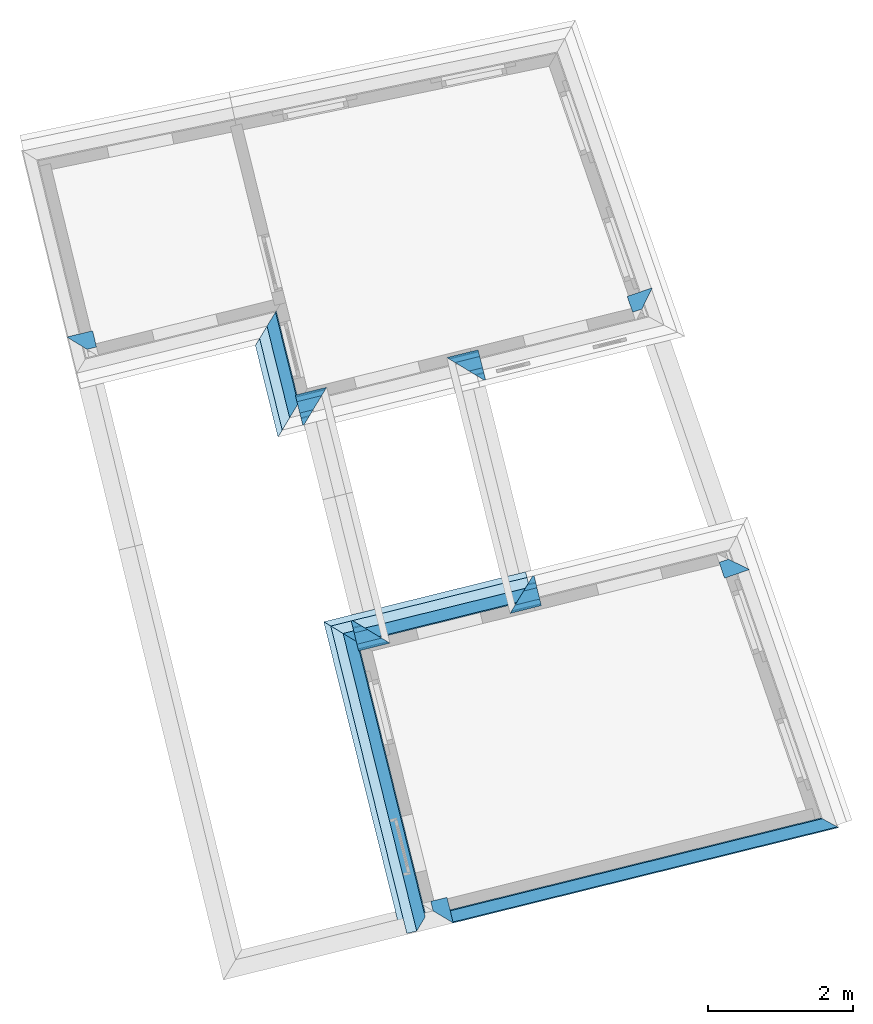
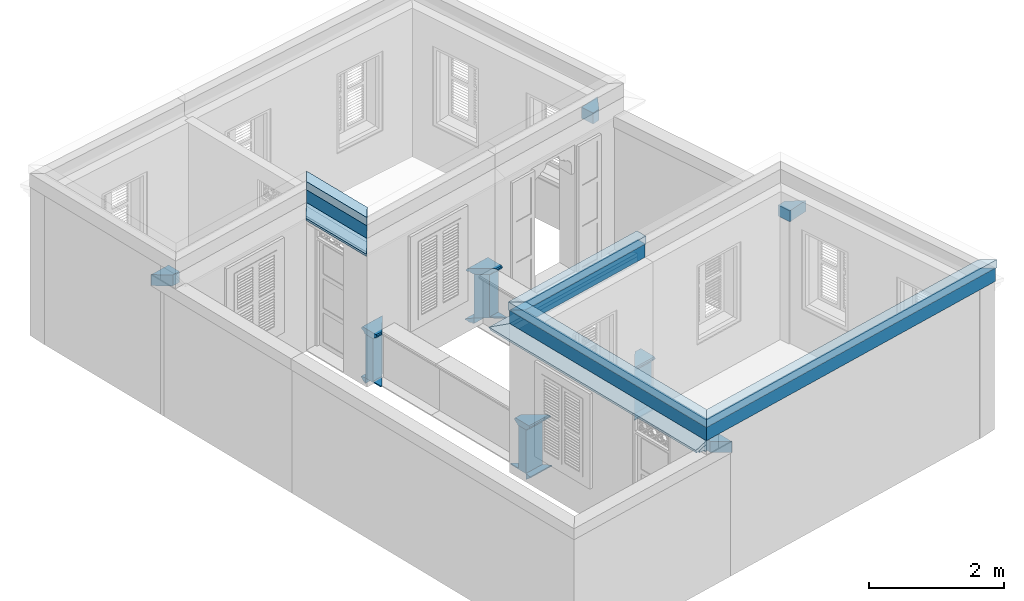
# One storey, part 13 of 15: 16 walls, 14 roofs.
"""IFC4 building model written with IfcOpenShell, lengths in metres."""

import ifcopenshell
import ifcopenshell.guid

model = None  # the IFC model being written
_history = None  # IfcOwnerHistory: only IFC2X3 demands one
_inside = {}  # id of a spatial element -> (the spatial element, [elements in it])
_under = {}  # id of a project, library or spatial element -> (it, [spatial elements below it])
_declared = {}  # id of a project -> (the project, [libraries it declares])
_typed = {}  # id of a type object -> (the type object, [elements of that type])
_made_of = {}  # id of a material, layer set ... -> (it, [elements and type objects made of it])


def new_model(schema):
    """Start an empty IFC model of exactly this schema.

    Asked for "IFC4X3", IfcOpenShell would pick the latest addendum, in which some entities
    have other attributes; the version numbers below select the first issue.
    IFC2X3 requires an IfcOwnerHistory on every rooted entity: one is made here for all.
    """
    global model, _history
    if schema == "IFC4X3":
        model = ifcopenshell.file(schema_version=(4, 3, 0, 0))
    else:
        model = ifcopenshell.file(schema=schema)
    _inside.clear()
    _under.clear()
    _declared.clear()
    _typed.clear()
    _made_of.clear()
    _history = None
    if model.schema == "IFC2X3":
        org = make("IfcOrganization", Name="unknown")
        user = make(
            "IfcPersonAndOrganization",
            ThePerson=make("IfcPerson", FamilyName="unknown"),
            TheOrganization=org,
        )
        app = make(
            "IfcApplication",
            ApplicationDeveloper=org,
            Version="unknown",
            ApplicationFullName="unknown",
            ApplicationIdentifier="unknown",
        )
        _history = make(
            "IfcOwnerHistory",
            OwningUser=user,
            OwningApplication=app,
            ChangeAction="ADDED",
            CreationDate=0,
        )
    return model


def make(cls, **values):
    """One entity of the class cls with the attributes given. An attribute that is None is left unset."""
    return model.create_entity(
        cls, **{name: value for name, value in values.items() if value is not None}
    )


def rooted(cls, **values):
    """An entity with a GlobalId (a new one), such as an element, a storey or a relation."""
    return make(cls, GlobalId=ifcopenshell.guid.new(), OwnerHistory=_history, **values)


def si_unit(unit_type, name, prefix=None):
    """IfcSIUnit, for example si_unit("LENGTHUNIT", "METRE", prefix="MILLI")."""
    return make("IfcSIUnit", UnitType=unit_type, Prefix=prefix, Name=name)


def assignment(units):
    """IfcUnitAssignment: the units of a project."""
    return None if units is None else make("IfcUnitAssignment", Units=units)


def point(xyz):
    """IfcCartesianPoint."""
    return None if xyz is None else make("IfcCartesianPoint", Coordinates=xyz)


def direction(xyz):
    """IfcDirection."""
    return None if xyz is None else make("IfcDirection", DirectionRatios=xyz)


def frame(location, z_axis=None, x_axis=None):
    """IfcAxis2Placement3D, a coordinate frame: its origin and axes. An axis left out is left unset."""
    return make(
        "IfcAxis2Placement3D",
        Location=point(location),
        Axis=direction(z_axis),
        RefDirection=direction(x_axis),
    )


def origin_with_axes():
    """The frame at (0, 0, 0) with the z axis (0, 0, 1) and the x axis (1, 0, 0) written out."""
    return frame((0.0, 0.0, 0.0), z_axis=(0.0, 0.0, 1.0), x_axis=(1.0, 0.0, 0.0))


def place(relative_to, where):
    """IfcLocalPlacement: puts the frame where relative to a parent placement (None: the world)."""
    return make(
        "IfcLocalPlacement", PlacementRelTo=relative_to, RelativePlacement=where
    )


def context(
    kind, dimensions, precision=None, world=None, true_north=None, identifier=None
):
    """IfcGeometricRepresentationContext, for example the 3D "Model" context."""
    return make(
        "IfcGeometricRepresentationContext",
        ContextIdentifier=identifier,
        ContextType=kind,
        CoordinateSpaceDimension=dimensions,
        Precision=precision,
        WorldCoordinateSystem=world,
        TrueNorth=true_north,
    )


def subcontext(parent, identifier, kind, view, scale=None):
    """IfcGeometricRepresentationSubContext, for example "Body" below "Model"."""
    return make(
        "IfcGeometricRepresentationSubContext",
        ContextIdentifier=identifier,
        ContextType=kind,
        ParentContext=parent,
        TargetScale=scale,
        TargetView=view,
    )


def project(units=None, contexts=None):
    """IfcProject with its units and contexts."""
    return rooted(
        "IfcProject",
        Name="project",
        RepresentationContexts=contexts,
        UnitsInContext=assignment(units),
    )


def spatial(cls, under=None, at=None, **own):
    """A site, building, storey or space (cls), placed at a placement, below another one or the project."""
    s = rooted(cls, ObjectPlacement=at, **own)
    if under is not None:
        _under.setdefault(under.id(), (under, []))[1].append(s)
    return s


def polyline(points):
    """IfcPolyline through the points."""
    return make("IfcPolyline", Points=[point(p) for p in points])


def outline(outer, holes=None, kind="AREA"):
    """IfcArbitraryClosedProfileDef: a profile drawn as a closed curve; with holes, ...WithVoids."""
    if holes is None:
        return make("IfcArbitraryClosedProfileDef", ProfileType=kind, OuterCurve=outer)
    return make(
        "IfcArbitraryProfileDefWithVoids",
        ProfileType=kind,
        OuterCurve=outer,
        InnerCurves=holes,
    )


def extrude(swept, where, along, depth):
    """IfcExtrudedAreaSolid: the profile swept, set in the frame where, extruded along a direction by depth."""
    return make(
        "IfcExtrudedAreaSolid",
        SweptArea=swept,
        Position=where,
        ExtrudedDirection=direction(along),
        Depth=depth,
    )


def clip(a, b, op="DIFFERENCE"):
    """IfcBooleanClippingResult: the solid a cut by the half space b."""
    return make(
        "IfcBooleanClippingResult", Operator=op, FirstOperand=a, SecondOperand=b
    )


def halfspace(plane, agree):
    """IfcHalfSpaceSolid: all space on one side of the plane z = 0 of the frame plane."""
    return make(
        "IfcHalfSpaceSolid",
        BaseSurface=make("IfcPlane", Position=plane),
        AgreementFlag=agree,
    )


def shape(context_of_items, identifier, shape_type, items):
    """IfcShapeRepresentation: the items that make up one representation, for example the "Body"."""
    return make(
        "IfcShapeRepresentation",
        ContextOfItems=context_of_items,
        RepresentationIdentifier=identifier,
        RepresentationType=shape_type,
        Items=items,
    )


def material_profile(
    of_material, cross_section, Name=None, Category=None, Priority=None
):
    """IfcMaterialProfile: a cross section and its material."""
    return make(
        "IfcMaterialProfile",
        Name=Name,
        Material=of_material,
        Profile=cross_section,
        Priority=Priority,
        Category=Category,
    )


def profile_set(profiles, Name=None, composite=None):
    """IfcMaterialProfileSet."""
    return make(
        "IfcMaterialProfileSet",
        Name=Name,
        MaterialProfiles=profiles,
        CompositeProfile=composite,
    )


def profile_usage(for_profile_set, cardinal=None, extent=None):
    """IfcMaterialProfileSetUsage: how a profile set lies along its element."""
    return make(
        "IfcMaterialProfileSetUsage",
        ForProfileSet=for_profile_set,
        CardinalPoint=cardinal,
        ReferenceExtent=extent,
    )


def made_of(thing, what):
    """Note that an element or type object is made of a material, layer set ...; save() writes the relation."""
    if what is not None:
        _made_of.setdefault(what.id(), (what, []))[1].append(thing)
    return thing


def type_object(cls, material=None, **own):
    """A type object (cls), such as IfcWallType, which elements share."""
    return made_of(rooted(cls, **own), material)


def element(
    cls,
    number,
    at=None,
    inside=None,
    cuts=None,
    type_object=None,
    material=None,
    context=None,
    identifier="Body",
    shape_type=None,
    held_by="IfcProductDefinitionShape",
    body=None,
    shapes=None,
    **own,
):
    """One element of the class cls, such as IfcWall. Its Tag is "e" and its number.

    at: its placement. inside: the storey or other place that contains it. cuts: it is an
    opening in that element (IfcRelVoidsElement). A single representation is given by context,
    identifier, shape_type and body (its items); several are given by shapes. held_by: the class
    of the entity that holds the representations. save() writes the other relations.
    """
    e = rooted(cls, Tag="e%d" % number, ObjectPlacement=at, **own)
    if body is not None:
        shapes = [shape(context, identifier, shape_type, body)]
    if shapes is not None:
        e.Representation = make(held_by, Representations=shapes)
    if inside is not None:
        _inside.setdefault(inside.id(), (inside, []))[1].append(e)
    if cuts is not None:
        rooted(
            "IfcRelVoidsElement", RelatingBuildingElement=cuts, RelatedOpeningElement=e
        )
    if type_object is not None:
        _typed.setdefault(type_object.id(), (type_object, []))[1].append(e)
    return made_of(e, material)


def aggregate(whole, parts):
    """IfcRelAggregates: a whole, such as a stair, and the parts it consists of."""
    return rooted("IfcRelAggregates", RelatingObject=whole, RelatedObjects=parts)


def save(model, path):
    """Write the relations noted so far, then the file.

    IfcRelAggregates (storeys below a building ...), IfcRelContainedInSpatialStructure (elements
    in a storey), IfcRelDefinesByType, IfcRelAssociatesMaterial and IfcRelDeclares: one each for
    every whole, place, type object, material and project.
    """
    for whole, parts in _under.values():
        aggregate(whole, parts)
    for where, things in _inside.values():
        rooted(
            "IfcRelContainedInSpatialStructure",
            RelatedElements=things,
            RelatingStructure=where,
        )
    for kind, things in _typed.values():
        rooted("IfcRelDefinesByType", RelatedObjects=things, RelatingType=kind)
    for what, things in _made_of.values():
        rooted("IfcRelAssociatesMaterial", RelatedObjects=things, RelatingMaterial=what)
    for by, libraries in _declared.values():
        rooted("IfcRelDeclares", RelatingContext=by, RelatedDefinitions=libraries)
    model.write(path)


model = new_model("IFC4")

# Units and contexts
model_context = context("Model", 3, world=origin_with_axes())
body_context = subcontext(model_context, "Body", "Model", "MODEL_VIEW")
ifc_project = project(units=[si_unit("PLANEANGLEUNIT", "RADIAN"), si_unit("MASSUNIT", "GRAM", prefix="KILO"), si_unit("FORCEUNIT", "NEWTON", prefix="KILO"), si_unit("LENGTHUNIT", "METRE"), si_unit("AREAUNIT", "SQUARE_METRE"), si_unit("VOLUMEUNIT", "CUBIC_METRE")], contexts=[model_context, model_context])

# Site, building, storey
site_placement = place(None, origin_with_axes())
site = spatial("IfcSite", under=ifc_project, at=site_placement, Name="Site plot-5", CompositionType="ELEMENT")
building_placement = place(None, origin_with_axes())
building = spatial("IfcBuilding", under=site, at=building_placement, Name="Building plot-5", CompositionType="ELEMENT")
storey_placement = place(None, frame((0.0, 0.0, 3.45), z_axis=(0.0, 0.0, 1.0), x_axis=(1.0, 0.0, 0.0)))
storey = spatial("IfcBuildingStorey", under=building, at=storey_placement, Name="plot-5 1", CompositionType="ELEMENT", Elevation=3.45)

# Walls
ifc_material_profile_1 = material_profile(None, outline(polyline([(0.265, 2.245), (0.265, 2.445), (0.035, 2.445), (0.035, 2.245), (0.265, 2.245)])))
ifc_profile_set_1 = profile_set([ifc_material_profile_1])
ifc_profile_usage_1 = profile_usage(ifc_profile_set_1)
wall_type_1 = type_object("IfcWallType", Name="parapet street_1", PredefinedType="PARAPET", material=ifc_profile_set_1)
wall_1_placement = place(storey_placement, frame((24.8957676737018, 25.5389001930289, 0.0), z_axis=(-0.945125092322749, -0.32670867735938, 0.0), x_axis=(0.32670867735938, -0.945125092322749, 0.0)))
element("IfcWall", 1, at=wall_1_placement, inside=storey, type_object=wall_type_1, material=ifc_profile_usage_1, Name="parapet street_1", context=body_context, shape_type="Clipping", body=[
    clip(clip(extrude(outline(polyline([(0.265, 2.245), (0.265, 2.445), (0.035, 2.445), (0.035, 2.245), (0.265, 2.245)])), origin_with_axes(), (0.0, 0.0, 1.0), 2.1), halfspace(frame((0.0, 0.0, 1.1), z_axis=(-9.49410759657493e-16, 0.0, -1.0), x_axis=(0.0, 1.0, 0.0)), True)), halfspace(frame((0.0, 0.0, 1.0), z_axis=(-0.707106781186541, 0.0, -0.707106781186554), x_axis=(0.0, 1.0, 0.0)), False)),
])
ifc_profile_usage_2 = profile_usage(ifc_profile_set_1)
wall_2_placement = place(storey_placement, frame((21.7435566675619, 28.2300858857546, 0.0), z_axis=(0.945125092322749, 0.32670867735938, 0.0), x_axis=(-0.32670867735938, 0.945125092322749, 0.0)))
element("IfcWall", 2, at=wall_2_placement, inside=storey, type_object=wall_type_1, material=ifc_profile_usage_2, Name="parapet street_1", context=body_context, shape_type="Clipping", body=[
    clip(clip(extrude(outline(polyline([(0.265, 2.245), (0.265, 2.445), (0.035, 2.445), (0.035, 2.245), (0.265, 2.245)])), origin_with_axes(), (0.0, 0.0, 1.0), 2.1), halfspace(frame((0.0, 0.0, 1.1), z_axis=(0.707106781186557, 0.0, -0.707106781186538), x_axis=(0.0, 1.0, 0.0)), True)), halfspace(frame((0.0, 0.0, 1.0), z_axis=(-9.49410759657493e-16, 0.0, -1.0), x_axis=(0.0, 1.0, 0.0)), False)),
])
ifc_material_profile_2 = material_profile(None, outline(polyline([(0.265, 2.245), (0.265, 2.445), (0.035, 2.445), (0.035, 2.245), (0.265, 2.245)])))
ifc_profile_set_2 = profile_set([ifc_material_profile_2])
ifc_profile_usage_3 = profile_usage(ifc_profile_set_2)
wall_type_2 = type_object("IfcWallType", Name="parapet party_1", PredefinedType="PARAPET", material=ifc_profile_set_2)
wall_3_placement = place(storey_placement, frame((14.2367490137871, 27.8169305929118, 0.0), z_axis=(0.971605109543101, 0.236608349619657, 0.0), x_axis=(-0.236608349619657, 0.971605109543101, 0.0)))
element("IfcWall", 3, at=wall_3_placement, inside=storey, type_object=wall_type_2, material=ifc_profile_usage_3, Name="parapet party_1", context=body_context, shape_type="Clipping", body=[
    clip(clip(extrude(outline(polyline([(0.265, 2.245), (0.265, 2.445), (0.035, 2.445), (0.035, 2.245), (0.265, 2.245)])), origin_with_axes(), (0.0, 0.0, 1.0), 2.1), halfspace(frame((0.0, 0.0, 1.1), z_axis=(8.26946079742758e-16, 0.0, -1.0), x_axis=(0.0, 1.0, 0.0)), True)), halfspace(frame((0.0, 0.0, 1.0), z_axis=(-0.707106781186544, 0.0, -0.707106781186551), x_axis=(0.0, 1.0, 0.0)), False)),
])
ifc_profile_usage_4 = profile_usage(ifc_profile_set_2)
wall_4_placement = place(storey_placement, frame((19.6233099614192, 21.4425455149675, 0.0), z_axis=(0.240250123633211, -0.970711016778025, 0.0), x_axis=(0.970711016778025, 0.240250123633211, 0.0)))
element("IfcWall", 4, at=wall_4_placement, inside=storey, type_object=wall_type_2, material=ifc_profile_usage_4, Name="parapet party_1", context=body_context, shape_type="Clipping", body=[
    clip(clip(extrude(outline(polyline([(0.265, 2.245), (0.265, 2.445), (0.035, 2.445), (0.035, 2.245), (0.265, 2.245)])), origin_with_axes(), (0.0, 0.0, 1.0), 2.1), halfspace(frame((0.0, 0.0, 1.1), z_axis=(0.707106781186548, 0.0, -0.707106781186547), x_axis=(0.0, 1.0, 0.0)), True)), halfspace(frame((0.0, 0.0, 1.0), z_axis=(1.93716910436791e-15, 0.0, -1.0), x_axis=(0.0, 1.0, 0.0)), False)),
])
ifc_material_profile_3 = material_profile(None, outline(polyline([(0.25, 0.0), (0.25, 0.795), (0.09, 0.795), (0.09, 0.02), (-0.08, 0.02), (-0.08, 0.0), (0.25, 0.0)])))
ifc_profile_set_3 = profile_set([ifc_material_profile_3])
ifc_profile_usage_5 = profile_usage(ifc_profile_set_3)
wall_type_3 = type_object("IfcWallType", Name="parapet internal_0", PredefinedType="PARAPET", material=ifc_profile_set_3)
wall_5_placement = place(storey_placement, frame((19.8901854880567, 24.5265854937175, 0.0), z_axis=(-0.970711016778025, -0.240250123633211, 0.0), x_axis=(0.240250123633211, -0.970711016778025, 0.0)))
element("IfcWall", 5, at=wall_5_placement, inside=storey, type_object=wall_type_3, material=ifc_profile_usage_5, Name="parapet internal_0", context=body_context, shape_type="Clipping", body=[
    clip(clip(extrude(outline(polyline([(0.25, 0.0), (0.25, 0.795), (0.09, 0.795), (0.09, 0.02), (-0.08, 0.02), (-0.08, 0.0), (0.25, 0.0)])), origin_with_axes(), (0.0, 0.0, 1.0), 2.1), halfspace(frame((0.0, 0.0, 1.1), z_axis=(1.71512449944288e-15, 0.0, -1.0), x_axis=(0.0, 1.0, 0.0)), True)), halfspace(frame((0.0, 0.0, 1.0), z_axis=(-0.70710678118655, 0.0, -0.707106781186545), x_axis=(0.0, 1.0, 0.0)), False)),
])
ifc_profile_usage_6 = profile_usage(ifc_profile_set_3)
wall_6_placement = place(storey_placement, frame((17.1456364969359, 26.8748212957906, 0.0), z_axis=(0.970711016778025, 0.240250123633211, 0.0), x_axis=(-0.240250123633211, 0.970711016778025, 0.0)))
element("IfcWall", 6, at=wall_6_placement, inside=storey, type_object=wall_type_3, material=ifc_profile_usage_6, Name="parapet internal_0", context=body_context, shape_type="Clipping", body=[
    clip(clip(extrude(outline(polyline([(0.25, 0.0), (0.25, 0.795), (0.09, 0.795), (0.09, 0.02), (-0.08, 0.02), (-0.08, 0.0), (0.25, 0.0)])), origin_with_axes(), (0.0, 0.0, 1.0), 2.1), halfspace(frame((0.0, 0.0, 1.1), z_axis=(0.707106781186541, 0.0, -0.707106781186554), x_axis=(0.0, 1.0, 0.0)), True)), halfspace(frame((0.0, 0.0, 1.0), z_axis=(1.71512449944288e-15, 0.0, -1.0), x_axis=(0.0, 1.0, 0.0)), False)),
])
ifc_material_profile_4 = material_profile(None, outline(polyline([(0.265, 0.795), (0.268, 0.807), (0.274, 0.816), (0.283, 0.822), (0.295, 0.825), (0.295, 0.84), (0.305, 0.84), (0.317, 0.842), (0.326, 0.849), (0.333, 0.858), (0.335, 0.87), (0.333, 0.882), (0.326, 0.891), (0.317, 0.898), (0.305, 0.9), (0.035, 0.9), (0.023, 0.898), (0.014, 0.891), (0.007, 0.882), (0.005, 0.87), (0.007, 0.858), (0.014, 0.849), (0.023, 0.842), (0.035, 0.84), (0.045, 0.84), (0.045, 0.825), (0.057, 0.822), (0.066, 0.816), (0.072, 0.807), (0.075, 0.795), (0.265, 0.795)])))
ifc_profile_set_4 = profile_set([ifc_material_profile_4])
ifc_profile_usage_7 = profile_usage(ifc_profile_set_4)
wall_type_4 = type_object("IfcWallType", Name="parapet internal_1", PredefinedType="PARAPET", material=ifc_profile_set_4)
wall_7_placement = place(storey_placement, frame((19.8901854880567, 24.5265854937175, 0.0), z_axis=(-0.970711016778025, -0.240250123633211, 0.0), x_axis=(0.240250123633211, -0.970711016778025, 0.0)))
element("IfcWall", 7, at=wall_7_placement, inside=storey, type_object=wall_type_4, material=ifc_profile_usage_7, Name="parapet internal_1", context=body_context, shape_type="Clipping", body=[
    clip(clip(extrude(outline(polyline([(0.265, 0.795), (0.268, 0.807), (0.274, 0.816), (0.283, 0.822), (0.295, 0.825), (0.295, 0.84), (0.305, 0.84), (0.317, 0.842), (0.326, 0.849), (0.333, 0.858), (0.335, 0.87), (0.333, 0.882), (0.326, 0.891), (0.317, 0.898), (0.305, 0.9), (0.035, 0.9), (0.023, 0.898), (0.014, 0.891), (0.007, 0.882), (0.005, 0.87), (0.007, 0.858), (0.014, 0.849), (0.023, 0.842), (0.035, 0.84), (0.045, 0.84), (0.045, 0.825), (0.057, 0.822), (0.066, 0.816), (0.072, 0.807), (0.075, 0.795), (0.265, 0.795)])), origin_with_axes(), (0.0, 0.0, 1.0), 2.1), halfspace(frame((0.0, 0.0, 1.1), z_axis=(1.71512449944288e-15, 0.0, -1.0), x_axis=(0.0, 1.0, 0.0)), True)), halfspace(frame((0.0, 0.0, 1.0), z_axis=(-0.70710678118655, 0.0, -0.707106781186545), x_axis=(0.0, 1.0, 0.0)), False)),
])
ifc_profile_usage_8 = profile_usage(ifc_profile_set_4)
wall_8_placement = place(storey_placement, frame((17.1456364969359, 26.8748212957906, 0.0), z_axis=(0.970711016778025, 0.240250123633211, 0.0), x_axis=(-0.240250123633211, 0.970711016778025, 0.0)))
element("IfcWall", 8, at=wall_8_placement, inside=storey, type_object=wall_type_4, material=ifc_profile_usage_8, Name="parapet internal_1", context=body_context, shape_type="Clipping", body=[
    clip(clip(extrude(outline(polyline([(0.265, 0.795), (0.268, 0.807), (0.274, 0.816), (0.283, 0.822), (0.295, 0.825), (0.295, 0.84), (0.305, 0.84), (0.317, 0.842), (0.326, 0.849), (0.333, 0.858), (0.335, 0.87), (0.333, 0.882), (0.326, 0.891), (0.317, 0.898), (0.305, 0.9), (0.035, 0.9), (0.023, 0.898), (0.014, 0.891), (0.007, 0.882), (0.005, 0.87), (0.007, 0.858), (0.014, 0.849), (0.023, 0.842), (0.035, 0.84), (0.045, 0.84), (0.045, 0.825), (0.057, 0.822), (0.066, 0.816), (0.072, 0.807), (0.075, 0.795), (0.265, 0.795)])), origin_with_axes(), (0.0, 0.0, 1.0), 2.1), halfspace(frame((0.0, 0.0, 1.1), z_axis=(0.707106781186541, 0.0, -0.707106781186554), x_axis=(0.0, 1.0, 0.0)), True)), halfspace(frame((0.0, 0.0, 1.0), z_axis=(1.71512449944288e-15, 0.0, -1.0), x_axis=(0.0, 1.0, 0.0)), False)),
])
ifc_material_profile_5 = material_profile(None, outline(polyline([(0.25, -0.1), (0.265, -0.1), (0.265, -0.085), (0.278, -0.084), (0.289, -0.081), (0.301, -0.074), (0.309, -0.065), (0.315, -0.055), (0.324, -0.044), (0.334, -0.038), (0.345, -0.035), (0.345, -0.015), (0.25, 0.0), (0.25, -0.1)])))
ifc_profile_set_5 = profile_set([ifc_material_profile_5])
ifc_profile_usage_9 = profile_usage(ifc_profile_set_5)
wall_type_5 = type_object("IfcWallType", Name="parapet internal_2", PredefinedType="PARAPET", material=ifc_profile_set_5)
wall_9_placement = place(storey_placement, frame((19.8901854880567, 24.5265854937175, 0.0), z_axis=(-0.970711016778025, -0.240250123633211, 0.0), x_axis=(0.240250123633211, -0.970711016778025, 0.0)))
element("IfcWall", 9, at=wall_9_placement, inside=storey, type_object=wall_type_5, material=ifc_profile_usage_9, Name="parapet internal_2", context=body_context, shape_type="Clipping", body=[
    clip(clip(extrude(outline(polyline([(0.25, -0.1), (0.265, -0.1), (0.265, -0.085), (0.278, -0.084), (0.289, -0.081), (0.301, -0.074), (0.309, -0.065), (0.315, -0.055), (0.324, -0.044), (0.334, -0.038), (0.345, -0.035), (0.345, -0.015), (0.25, 0.0), (0.25, -0.1)])), origin_with_axes(), (0.0, 0.0, 1.0), 2.1), halfspace(frame((0.0, 0.0, 1.1), z_axis=(1.71512449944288e-15, 0.0, -1.0), x_axis=(0.0, 1.0, 0.0)), True)), halfspace(frame((0.0, 0.0, 1.0), z_axis=(-0.70710678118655, 0.0, -0.707106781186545), x_axis=(0.0, 1.0, 0.0)), False)),
])
ifc_profile_usage_10 = profile_usage(ifc_profile_set_5)
wall_10_placement = place(storey_placement, frame((17.1456364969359, 26.8748212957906, 0.0), z_axis=(0.970711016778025, 0.240250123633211, 0.0), x_axis=(-0.240250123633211, 0.970711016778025, 0.0)))
element("IfcWall", 10, at=wall_10_placement, inside=storey, type_object=wall_type_5, material=ifc_profile_usage_10, Name="parapet internal_2", context=body_context, shape_type="Clipping", body=[
    clip(clip(extrude(outline(polyline([(0.25, -0.1), (0.265, -0.1), (0.265, -0.085), (0.278, -0.084), (0.289, -0.081), (0.301, -0.074), (0.309, -0.065), (0.315, -0.055), (0.324, -0.044), (0.334, -0.038), (0.345, -0.035), (0.345, -0.015), (0.25, 0.0), (0.25, -0.1)])), origin_with_axes(), (0.0, 0.0, 1.0), 2.1), halfspace(frame((0.0, 0.0, 1.1), z_axis=(0.707106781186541, 0.0, -0.707106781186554), x_axis=(0.0, 1.0, 0.0)), True)), halfspace(frame((0.0, 0.0, 1.0), z_axis=(1.71512449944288e-15, 0.0, -1.0), x_axis=(0.0, 1.0, 0.0)), False)),
])
ifc_material_profile_6 = material_profile(None, outline(polyline([(0.25, 0.0), (0.25, 0.795), (0.09, 0.795), (0.09, 0.02), (-0.08, 0.02), (-0.08, 0.0), (0.25, 0.0)])))
ifc_profile_set_6 = profile_set([ifc_material_profile_6])
ifc_profile_usage_11 = profile_usage(ifc_profile_set_6)
wall_type_6 = type_object("IfcWallType", Name="parapet internal_0", PredefinedType="PARAPET", material=ifc_profile_set_6)
wall_11_placement = place(storey_placement, frame((19.5648341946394, 27.4735706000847, 0.0), z_axis=(0.970711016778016, 0.240250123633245, 0.0), x_axis=(-0.240250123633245, 0.970711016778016, 0.0)))
element("IfcWall", 11, at=wall_11_placement, inside=storey, type_object=wall_type_6, material=ifc_profile_usage_11, Name="parapet internal_0", context=body_context, shape_type="Clipping", body=[
    clip(clip(extrude(outline(polyline([(0.25, 0.0), (0.25, 0.795), (0.09, 0.795), (0.09, 0.02), (-0.08, 0.02), (-0.08, 0.0), (0.25, 0.0)])), origin_with_axes(), (0.0, 0.0, 1.0), 2.1), halfspace(frame((0.0, 0.0, 1.1), z_axis=(-5.0532154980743e-16, 0.0, -1.0), x_axis=(0.0, 1.0, 0.0)), True)), halfspace(frame((0.0, 0.0, 1.0), z_axis=(-0.70710678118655, 0.0, -0.707106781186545), x_axis=(0.0, 1.0, 0.0)), False)),
])
ifc_profile_usage_12 = profile_usage(ifc_profile_set_6)
wall_12_placement = place(storey_placement, frame((22.3093831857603, 25.1253347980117, 0.0), z_axis=(-0.970711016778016, -0.240250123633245, 0.0), x_axis=(0.240250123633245, -0.970711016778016, 0.0)))
element("IfcWall", 12, at=wall_12_placement, inside=storey, type_object=wall_type_6, material=ifc_profile_usage_12, Name="parapet internal_0", context=body_context, shape_type="Clipping", body=[
    clip(clip(extrude(outline(polyline([(0.25, 0.0), (0.25, 0.795), (0.09, 0.795), (0.09, 0.02), (-0.08, 0.02), (-0.08, 0.0), (0.25, 0.0)])), origin_with_axes(), (0.0, 0.0, 1.0), 2.1), halfspace(frame((0.0, 0.0, 1.1), z_axis=(0.707106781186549, 0.0, -0.707106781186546), x_axis=(0.0, 1.0, 0.0)), True)), halfspace(frame((0.0, 0.0, 1.0), z_axis=(-9.49410759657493e-16, 0.0, -1.0), x_axis=(0.0, 1.0, 0.0)), False)),
])
ifc_material_profile_7 = material_profile(None, outline(polyline([(0.265, 0.795), (0.268, 0.807), (0.274, 0.816), (0.283, 0.822), (0.295, 0.825), (0.295, 0.84), (0.305, 0.84), (0.317, 0.842), (0.326, 0.849), (0.333, 0.858), (0.335, 0.87), (0.333, 0.882), (0.326, 0.891), (0.317, 0.898), (0.305, 0.9), (0.035, 0.9), (0.023, 0.898), (0.014, 0.891), (0.007, 0.882), (0.005, 0.87), (0.007, 0.858), (0.014, 0.849), (0.023, 0.842), (0.035, 0.84), (0.045, 0.84), (0.045, 0.825), (0.057, 0.822), (0.066, 0.816), (0.072, 0.807), (0.075, 0.795), (0.265, 0.795)])))
ifc_profile_set_7 = profile_set([ifc_material_profile_7])
ifc_profile_usage_13 = profile_usage(ifc_profile_set_7)
wall_type_7 = type_object("IfcWallType", Name="parapet internal_1", PredefinedType="PARAPET", material=ifc_profile_set_7)
wall_13_placement = place(storey_placement, frame((19.5648341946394, 27.4735706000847, 0.0), z_axis=(0.970711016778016, 0.240250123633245, 0.0), x_axis=(-0.240250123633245, 0.970711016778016, 0.0)))
element("IfcWall", 13, at=wall_13_placement, inside=storey, type_object=wall_type_7, material=ifc_profile_usage_13, Name="parapet internal_1", context=body_context, shape_type="Clipping", body=[
    clip(clip(extrude(outline(polyline([(0.265, 0.795), (0.268, 0.807), (0.274, 0.816), (0.283, 0.822), (0.295, 0.825), (0.295, 0.84), (0.305, 0.84), (0.317, 0.842), (0.326, 0.849), (0.333, 0.858), (0.335, 0.87), (0.333, 0.882), (0.326, 0.891), (0.317, 0.898), (0.305, 0.9), (0.035, 0.9), (0.023, 0.898), (0.014, 0.891), (0.007, 0.882), (0.005, 0.87), (0.007, 0.858), (0.014, 0.849), (0.023, 0.842), (0.035, 0.84), (0.045, 0.84), (0.045, 0.825), (0.057, 0.822), (0.066, 0.816), (0.072, 0.807), (0.075, 0.795), (0.265, 0.795)])), origin_with_axes(), (0.0, 0.0, 1.0), 2.1), halfspace(frame((0.0, 0.0, 1.1), z_axis=(-5.0532154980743e-16, 0.0, -1.0), x_axis=(0.0, 1.0, 0.0)), True)), halfspace(frame((0.0, 0.0, 1.0), z_axis=(-0.70710678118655, 0.0, -0.707106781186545), x_axis=(0.0, 1.0, 0.0)), False)),
])
ifc_profile_usage_14 = profile_usage(ifc_profile_set_7)
wall_14_placement = place(storey_placement, frame((22.3093831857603, 25.1253347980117, 0.0), z_axis=(-0.970711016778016, -0.240250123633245, 0.0), x_axis=(0.240250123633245, -0.970711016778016, 0.0)))
element("IfcWall", 14, at=wall_14_placement, inside=storey, type_object=wall_type_7, material=ifc_profile_usage_14, Name="parapet internal_1", context=body_context, shape_type="Clipping", body=[
    clip(clip(extrude(outline(polyline([(0.265, 0.795), (0.268, 0.807), (0.274, 0.816), (0.283, 0.822), (0.295, 0.825), (0.295, 0.84), (0.305, 0.84), (0.317, 0.842), (0.326, 0.849), (0.333, 0.858), (0.335, 0.87), (0.333, 0.882), (0.326, 0.891), (0.317, 0.898), (0.305, 0.9), (0.035, 0.9), (0.023, 0.898), (0.014, 0.891), (0.007, 0.882), (0.005, 0.87), (0.007, 0.858), (0.014, 0.849), (0.023, 0.842), (0.035, 0.84), (0.045, 0.84), (0.045, 0.825), (0.057, 0.822), (0.066, 0.816), (0.072, 0.807), (0.075, 0.795), (0.265, 0.795)])), origin_with_axes(), (0.0, 0.0, 1.0), 2.1), halfspace(frame((0.0, 0.0, 1.1), z_axis=(0.707106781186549, 0.0, -0.707106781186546), x_axis=(0.0, 1.0, 0.0)), True)), halfspace(frame((0.0, 0.0, 1.0), z_axis=(-9.49410759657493e-16, 0.0, -1.0), x_axis=(0.0, 1.0, 0.0)), False)),
])
ifc_material_profile_8 = material_profile(None, outline(polyline([(0.25, -0.1), (0.265, -0.1), (0.265, -0.085), (0.278, -0.084), (0.289, -0.081), (0.301, -0.074), (0.309, -0.065), (0.315, -0.055), (0.324, -0.044), (0.334, -0.038), (0.345, -0.035), (0.345, -0.015), (0.25, 0.0), (0.25, -0.1)])))
ifc_profile_set_8 = profile_set([ifc_material_profile_8])
ifc_profile_usage_15 = profile_usage(ifc_profile_set_8)
wall_type_8 = type_object("IfcWallType", Name="parapet internal_2", PredefinedType="PARAPET", material=ifc_profile_set_8)
wall_15_placement = place(storey_placement, frame((19.5648341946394, 27.4735706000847, 0.0), z_axis=(0.970711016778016, 0.240250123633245, 0.0), x_axis=(-0.240250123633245, 0.970711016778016, 0.0)))
element("IfcWall", 15, at=wall_15_placement, inside=storey, type_object=wall_type_8, material=ifc_profile_usage_15, Name="parapet internal_2", context=body_context, shape_type="Clipping", body=[
    clip(clip(extrude(outline(polyline([(0.25, -0.1), (0.265, -0.1), (0.265, -0.085), (0.278, -0.084), (0.289, -0.081), (0.301, -0.074), (0.309, -0.065), (0.315, -0.055), (0.324, -0.044), (0.334, -0.038), (0.345, -0.035), (0.345, -0.015), (0.25, 0.0), (0.25, -0.1)])), origin_with_axes(), (0.0, 0.0, 1.0), 2.1), halfspace(frame((0.0, 0.0, 1.1), z_axis=(-5.0532154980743e-16, 0.0, -1.0), x_axis=(0.0, 1.0, 0.0)), True)), halfspace(frame((0.0, 0.0, 1.0), z_axis=(-0.70710678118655, 0.0, -0.707106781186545), x_axis=(0.0, 1.0, 0.0)), False)),
])
ifc_profile_usage_16 = profile_usage(ifc_profile_set_8)
wall_16_placement = place(storey_placement, frame((22.3093831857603, 25.1253347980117, 0.0), z_axis=(-0.970711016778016, -0.240250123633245, 0.0), x_axis=(0.240250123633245, -0.970711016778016, 0.0)))
element("IfcWall", 16, at=wall_16_placement, inside=storey, type_object=wall_type_8, material=ifc_profile_usage_16, Name="parapet internal_2", context=body_context, shape_type="Clipping", body=[
    clip(clip(extrude(outline(polyline([(0.25, -0.1), (0.265, -0.1), (0.265, -0.085), (0.278, -0.084), (0.289, -0.081), (0.301, -0.074), (0.309, -0.065), (0.315, -0.055), (0.324, -0.044), (0.334, -0.038), (0.345, -0.035), (0.345, -0.015), (0.25, 0.0), (0.25, -0.1)])), origin_with_axes(), (0.0, 0.0, 1.0), 2.1), halfspace(frame((0.0, 0.0, 1.1), z_axis=(0.707106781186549, 0.0, -0.707106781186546), x_axis=(0.0, 1.0, 0.0)), True)), halfspace(frame((0.0, 0.0, 1.0), z_axis=(-9.49410759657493e-16, 0.0, -1.0), x_axis=(0.0, 1.0, 0.0)), False)),
])

# Roofs
ifc_material_profile_9 = material_profile(None, outline(polyline([(0.25, 0.0), (0.25, 0.245), (0.09, 0.245), (0.09, 0.0), (0.25, 0.0)])))
ifc_profile_set_9 = profile_set([ifc_material_profile_9])
ifc_profile_usage_17 = profile_usage(ifc_profile_set_9)
roof_type_1 = type_object("IfcRoofType", Name="roofline_0", PredefinedType="FREEFORM", material=ifc_profile_set_9)
roof_1_placement = place(storey_placement, frame((18.023240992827, 23.7451648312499, 2.7), z_axis=(0.970711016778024, 0.240250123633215, 0.0), x_axis=(-0.240250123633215, 0.970711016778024, 0.0)))
element("IfcRoof", 17, at=roof_1_placement, inside=storey, type_object=roof_type_1, material=ifc_profile_usage_17, Name="roofline_0", context=body_context, shape_type="Clipping", body=[
    clip(clip(extrude(outline(polyline([(0.25, 0.0), (0.25, 0.245), (0.09, 0.245), (0.09, 0.0), (0.25, 0.0)])), origin_with_axes(), (0.0, 0.0, 1.0), 4.39219145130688), halfspace(frame((0.0, 0.0, 3.39219145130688), z_axis=(-3.42561014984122e-14, 0.0, -1.0), x_axis=(0.0, 1.0, 0.0)), True)), halfspace(frame((0.0, 0.0, 1.0), z_axis=(-0.70710678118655, 0.0, -0.707106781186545), x_axis=(0.0, 1.0, 0.0)), False)),
])
ifc_profile_usage_18 = profile_usage(ifc_profile_set_9)
roof_2_placement = place(storey_placement, frame((20.1278352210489, 19.4040523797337, 2.7), z_axis=(-0.24025012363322, 0.970711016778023, 0.0), x_axis=(-0.970711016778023, -0.24025012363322, 0.0)))
element("IfcRoof", 18, at=roof_2_placement, inside=storey, type_object=roof_type_1, material=ifc_profile_usage_18, Name="roofline_0", context=body_context, shape_type="Clipping", body=[
    clip(clip(extrude(outline(polyline([(0.25, 0.0), (0.25, 0.245), (0.09, 0.245), (0.09, 0.0), (0.25, 0.0)])), origin_with_axes(), (0.0, 0.0, 1.0), 5.71959470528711), halfspace(frame((0.0, 0.0, 4.71959470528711), z_axis=(0.707106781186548, 0.0, -0.707106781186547), x_axis=(0.0, 1.0, 0.0)), True)), halfspace(frame((0.0, 0.0, 1.0), z_axis=(-0.70710678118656, 0.0, -0.707106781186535), x_axis=(0.0, 1.0, 0.0)), False)),
])
ifc_profile_usage_19 = profile_usage(ifc_profile_set_9)
roof_3_placement = place(storey_placement, frame((26.1415373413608, 21.9226110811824, 2.7), z_axis=(-0.970711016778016, -0.240250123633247, 0.0), x_axis=(0.240250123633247, -0.970711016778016, 0.0)))
element("IfcRoof", 19, at=roof_3_placement, inside=storey, type_object=roof_type_1, material=ifc_profile_usage_19, Name="roofline_0", context=body_context, shape_type="Clipping", body=[
    clip(clip(extrude(outline(polyline([(0.25, 0.0), (0.25, 0.245), (0.09, 0.245), (0.09, 0.0), (0.25, 0.0)])), origin_with_axes(), (0.0, 0.0, 1.0), 7.4426509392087), halfspace(frame((0.0, 0.0, 6.4426509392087), z_axis=(0.707106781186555, 0.0, -0.70710678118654), x_axis=(0.0, 1.0, 0.0)), True)), halfspace(frame((0.0, 0.0, 1.0), z_axis=(-0.738265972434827, 0.0, -0.674509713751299), x_axis=(0.0, 1.0, 0.0)), False)),
])
ifc_material_profile_10 = material_profile(None, outline(polyline([(0.265, 0.245), (0.265, 0.395), (0.075, 0.395), (0.075, 0.245), (0.265, 0.245)])))
ifc_profile_set_10 = profile_set([ifc_material_profile_10])
ifc_profile_usage_20 = profile_usage(ifc_profile_set_10)
roof_type_2 = type_object("IfcRoofType", Name="roofline_1", PredefinedType="FREEFORM", material=ifc_profile_set_10)
roof_4_placement = place(storey_placement, frame((18.023240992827, 23.7451648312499, 2.7), z_axis=(0.970711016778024, 0.240250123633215, 0.0), x_axis=(-0.240250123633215, 0.970711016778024, 0.0)))
element("IfcRoof", 20, at=roof_4_placement, inside=storey, type_object=roof_type_2, material=ifc_profile_usage_20, Name="roofline_1", context=body_context, shape_type="Clipping", body=[
    clip(clip(extrude(outline(polyline([(0.265, 0.245), (0.265, 0.395), (0.075, 0.395), (0.075, 0.245), (0.265, 0.245)])), origin_with_axes(), (0.0, 0.0, 1.0), 4.39219145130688), halfspace(frame((0.0, 0.0, 3.39219145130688), z_axis=(-3.42561014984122e-14, 0.0, -1.0), x_axis=(0.0, 1.0, 0.0)), True)), halfspace(frame((0.0, 0.0, 1.0), z_axis=(-0.70710678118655, 0.0, -0.707106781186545), x_axis=(0.0, 1.0, 0.0)), False)),
])
ifc_profile_usage_21 = profile_usage(ifc_profile_set_10)
roof_5_placement = place(storey_placement, frame((20.1278352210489, 19.4040523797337, 2.7), z_axis=(-0.24025012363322, 0.970711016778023, 0.0), x_axis=(-0.970711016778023, -0.24025012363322, 0.0)))
element("IfcRoof", 21, at=roof_5_placement, inside=storey, type_object=roof_type_2, material=ifc_profile_usage_21, Name="roofline_1", context=body_context, shape_type="Clipping", body=[
    clip(clip(extrude(outline(polyline([(0.265, 0.245), (0.265, 0.395), (0.075, 0.395), (0.075, 0.245), (0.265, 0.245)])), origin_with_axes(), (0.0, 0.0, 1.0), 5.71959470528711), halfspace(frame((0.0, 0.0, 4.71959470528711), z_axis=(0.707106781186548, 0.0, -0.707106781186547), x_axis=(0.0, 1.0, 0.0)), True)), halfspace(frame((0.0, 0.0, 1.0), z_axis=(-0.70710678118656, 0.0, -0.707106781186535), x_axis=(0.0, 1.0, 0.0)), False)),
])
ifc_profile_usage_22 = profile_usage(ifc_profile_set_10)
roof_6_placement = place(storey_placement, frame((26.1415373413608, 21.9226110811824, 2.7), z_axis=(-0.970711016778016, -0.240250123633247, 0.0), x_axis=(0.240250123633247, -0.970711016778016, 0.0)))
element("IfcRoof", 22, at=roof_6_placement, inside=storey, type_object=roof_type_2, material=ifc_profile_usage_22, Name="roofline_1", context=body_context, shape_type="Clipping", body=[
    clip(clip(extrude(outline(polyline([(0.265, 0.245), (0.265, 0.395), (0.075, 0.395), (0.075, 0.245), (0.265, 0.245)])), origin_with_axes(), (0.0, 0.0, 1.0), 7.4426509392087), halfspace(frame((0.0, 0.0, 6.4426509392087), z_axis=(0.707106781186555, 0.0, -0.70710678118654), x_axis=(0.0, 1.0, 0.0)), True)), halfspace(frame((0.0, 0.0, 1.0), z_axis=(-0.738265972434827, 0.0, -0.674509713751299), x_axis=(0.0, 1.0, 0.0)), False)),
])
ifc_material_profile_11 = material_profile(None, outline(polyline([(0.25, 0.0), (0.25, 0.245), (0.09, 0.245), (0.09, 0.0), (0.25, 0.0)])))
ifc_profile_set_11 = profile_set([ifc_material_profile_11])
ifc_profile_usage_23 = profile_usage(ifc_profile_set_11)
roof_type_3 = type_object("IfcRoofType", Name="roofline_0", PredefinedType="FREEFORM", material=ifc_profile_set_11)
roof_7_placement = place(storey_placement, frame((18.3791912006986, 26.4693058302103, 2.7), z_axis=(-0.240250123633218, 0.970711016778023, 0.0), x_axis=(-0.970711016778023, -0.240250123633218, 0.0)))
element("IfcRoof", 23, at=roof_7_placement, inside=storey, type_object=roof_type_3, material=ifc_profile_usage_23, Name="roofline_0", context=body_context, shape_type="Clipping", body=[
    clip(clip(extrude(outline(polyline([(0.25, 0.0), (0.25, 0.245), (0.09, 0.245), (0.09, 0.0), (0.25, 0.0)])), origin_with_axes(), (0.0, 0.0, 1.0), 3.29962653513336), halfspace(frame((0.0, 0.0, 2.29962653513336), z_axis=(-0.707106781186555, 0.0, -0.70710678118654), x_axis=(0.0, 1.0, 0.0)), True)), halfspace(frame((0.0, 0.0, 1.0), z_axis=(-0.707106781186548, 0.0, -0.707106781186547), x_axis=(0.0, 1.0, 0.0)), False)),
])
ifc_material_profile_12 = material_profile(None, outline(polyline([(0.265, 0.245), (0.265, 0.395), (0.075, 0.395), (0.075, 0.245), (0.265, 0.245)])))
ifc_profile_set_12 = profile_set([ifc_material_profile_12])
ifc_profile_usage_24 = profile_usage(ifc_profile_set_12)
roof_type_4 = type_object("IfcRoofType", Name="roofline_1", PredefinedType="FREEFORM", material=ifc_profile_set_12)
roof_8_placement = place(storey_placement, frame((18.3791912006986, 26.4693058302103, 2.7), z_axis=(-0.240250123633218, 0.970711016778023, 0.0), x_axis=(-0.970711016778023, -0.240250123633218, 0.0)))
element("IfcRoof", 24, at=roof_8_placement, inside=storey, type_object=roof_type_4, material=ifc_profile_usage_24, Name="roofline_1", context=body_context, shape_type="Clipping", body=[
    clip(clip(extrude(outline(polyline([(0.265, 0.245), (0.265, 0.395), (0.075, 0.395), (0.075, 0.245), (0.265, 0.245)])), origin_with_axes(), (0.0, 0.0, 1.0), 3.29962653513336), halfspace(frame((0.0, 0.0, 2.29962653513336), z_axis=(-0.707106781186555, 0.0, -0.70710678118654), x_axis=(0.0, 1.0, 0.0)), True)), halfspace(frame((0.0, 0.0, 1.0), z_axis=(-0.707106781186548, 0.0, -0.707106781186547), x_axis=(0.0, 1.0, 0.0)), False)),
])
ifc_material_profile_13 = material_profile(None, outline(polyline([(0.25, -0.19), (0.275, -0.19), (0.275, -0.15), (0.39, -0.15), (0.39, -0.107509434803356), (0.25, -0.0629639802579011), (0.25, -0.19)])))
ifc_profile_set_13 = profile_set([ifc_material_profile_13])
ifc_profile_usage_25 = profile_usage(ifc_profile_set_13)
roof_type_5 = type_object("IfcRoofType", Name="eaves_0", PredefinedType="FREEFORM", material=ifc_profile_set_13)
roof_9_placement = place(storey_placement, frame((18.3791912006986, 26.4693058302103, 2.7), z_axis=(-0.240250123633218, 0.970711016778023, 0.0), x_axis=(-0.970711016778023, -0.240250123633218, 0.0)))
element("IfcRoof", 25, at=roof_9_placement, inside=storey, type_object=roof_type_5, material=ifc_profile_usage_25, Name="eaves_0", context=body_context, shape_type="Clipping", body=[
    clip(clip(extrude(outline(polyline([(0.25, -0.19), (0.275, -0.19), (0.275, -0.15), (0.39, -0.15), (0.39, -0.107509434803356), (0.25, -0.0629639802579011), (0.25, -0.19)])), origin_with_axes(), (0.0, 0.0, 1.0), 3.29962653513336), halfspace(frame((0.0, 0.0, 2.29962653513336), z_axis=(-0.707106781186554, 0.0, -0.707106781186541), x_axis=(0.0, 1.0, 0.0)), True)), halfspace(frame((0.0, 0.0, 1.0), z_axis=(-0.707106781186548, 0.0, -0.707106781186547), x_axis=(0.0, 1.0, 0.0)), False)),
])
ifc_material_profile_14 = material_profile(None, outline(polyline([(0.25, -0.0629639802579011), (0.451807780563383, -0.127175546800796), (0.47, -0.07), (0.25, 0.0), (0.25, -0.0629639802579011)])))
ifc_profile_set_14 = profile_set([ifc_material_profile_14])
ifc_profile_usage_26 = profile_usage(ifc_profile_set_14)
roof_type_6 = type_object("IfcRoofType", Name="eaves_1", PredefinedType="FREEFORM", material=ifc_profile_set_14)
roof_10_placement = place(storey_placement, frame((18.3791912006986, 26.4693058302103, 2.7), z_axis=(-0.240250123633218, 0.970711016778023, 0.0), x_axis=(-0.970711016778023, -0.240250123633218, 0.0)))
element("IfcRoof", 26, at=roof_10_placement, inside=storey, type_object=roof_type_6, material=ifc_profile_usage_26, Name="eaves_1", context=body_context, shape_type="Clipping", body=[
    clip(clip(extrude(outline(polyline([(0.25, -0.0629639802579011), (0.451807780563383, -0.127175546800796), (0.47, -0.07), (0.25, 0.0), (0.25, -0.0629639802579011)])), origin_with_axes(), (0.0, 0.0, 1.0), 3.29962653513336), halfspace(frame((0.0, 0.0, 2.29962653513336), z_axis=(-0.707106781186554, 0.0, -0.707106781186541), x_axis=(0.0, 1.0, 0.0)), True)), halfspace(frame((0.0, 0.0, 1.0), z_axis=(-0.707106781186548, 0.0, -0.707106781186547), x_axis=(0.0, 1.0, 0.0)), False)),
])
ifc_material_profile_15 = material_profile(None, outline(polyline([(0.25, -0.19), (0.275, -0.19), (0.275, -0.15), (0.39, -0.15), (0.39, -0.107509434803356), (0.25, -0.0629639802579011), (0.25, -0.19)])))
ifc_profile_set_15 = profile_set([ifc_material_profile_15])
ifc_profile_usage_27 = profile_usage(ifc_profile_set_15)
roof_type_7 = type_object("IfcRoofType", Name="eaves_0", PredefinedType="FREEFORM", material=ifc_profile_set_15)
roof_11_placement = place(storey_placement, frame((18.023240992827, 23.7451648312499, 2.7), z_axis=(0.970711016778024, 0.240250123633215, 0.0), x_axis=(-0.240250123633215, 0.970711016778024, 0.0)))
element("IfcRoof", 27, at=roof_11_placement, inside=storey, type_object=roof_type_7, material=ifc_profile_usage_27, Name="eaves_0", context=body_context, shape_type="Clipping", body=[
    clip(clip(extrude(outline(polyline([(0.25, -0.19), (0.275, -0.19), (0.275, -0.15), (0.39, -0.15), (0.39, -0.107509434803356), (0.25, -0.0629639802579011), (0.25, -0.19)])), origin_with_axes(), (0.0, 0.0, 1.0), 4.39219145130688), halfspace(frame((0.0, 0.0, 3.39219145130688), z_axis=(-3.42561014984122e-14, 0.0, -1.0), x_axis=(0.0, 1.0, 0.0)), True)), halfspace(frame((0.0, 0.0, 1.0), z_axis=(-0.707106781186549, 0.0, -0.707106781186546), x_axis=(0.0, 1.0, 0.0)), False)),
])
ifc_profile_usage_28 = profile_usage(ifc_profile_set_15)
roof_12_placement = place(storey_placement, frame((20.1878977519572, 19.1613746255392, 2.7), z_axis=(-0.24025012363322, 0.970711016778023, 0.0), x_axis=(-0.970711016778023, -0.24025012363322, 0.0)))
element("IfcRoof", 28, at=roof_12_placement, inside=storey, type_object=roof_type_7, material=ifc_profile_usage_28, Name="eaves_0", context=body_context, shape_type="Clipping", body=[
    clip(clip(extrude(outline(polyline([(0.25, -0.19), (0.275, -0.19), (0.275, -0.15), (0.39, -0.15), (0.39, -0.107509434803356), (0.25, -0.0629639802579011), (0.25, -0.19)])), origin_with_axes(), (0.0, 0.0, 1.0), 5.96959470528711), halfspace(frame((0.0, 0.0, 4.96959470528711), z_axis=(0.707106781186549, 0.0, -0.707106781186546), x_axis=(0.0, 1.0, 0.0)), True)), halfspace(frame((0.0, 0.0, 1.0), z_axis=(-7.27366154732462e-16, 0.0, -1.0), x_axis=(0.0, 1.0, 0.0)), False)),
])
ifc_material_profile_16 = material_profile(None, outline(polyline([(0.25, -0.0629639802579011), (0.451807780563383, -0.127175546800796), (0.47, -0.07), (0.25, 0.0), (0.25, -0.0629639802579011)])))
ifc_profile_set_16 = profile_set([ifc_material_profile_16])
ifc_profile_usage_29 = profile_usage(ifc_profile_set_16)
roof_type_8 = type_object("IfcRoofType", Name="eaves_1", PredefinedType="FREEFORM", material=ifc_profile_set_16)
roof_13_placement = place(storey_placement, frame((18.023240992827, 23.7451648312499, 2.7), z_axis=(0.970711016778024, 0.240250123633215, 0.0), x_axis=(-0.240250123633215, 0.970711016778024, 0.0)))
element("IfcRoof", 29, at=roof_13_placement, inside=storey, type_object=roof_type_8, material=ifc_profile_usage_29, Name="eaves_1", context=body_context, shape_type="Clipping", body=[
    clip(clip(extrude(outline(polyline([(0.25, -0.0629639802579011), (0.451807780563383, -0.127175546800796), (0.47, -0.07), (0.25, 0.0), (0.25, -0.0629639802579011)])), origin_with_axes(), (0.0, 0.0, 1.0), 4.39219145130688), halfspace(frame((0.0, 0.0, 3.39219145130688), z_axis=(-3.42561014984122e-14, 0.0, -1.0), x_axis=(0.0, 1.0, 0.0)), True)), halfspace(frame((0.0, 0.0, 1.0), z_axis=(-0.707106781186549, 0.0, -0.707106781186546), x_axis=(0.0, 1.0, 0.0)), False)),
])
ifc_profile_usage_30 = profile_usage(ifc_profile_set_16)
roof_14_placement = place(storey_placement, frame((20.1878977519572, 19.1613746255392, 2.7), z_axis=(-0.24025012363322, 0.970711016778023, 0.0), x_axis=(-0.970711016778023, -0.24025012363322, 0.0)))
element("IfcRoof", 30, at=roof_14_placement, inside=storey, type_object=roof_type_8, material=ifc_profile_usage_30, Name="eaves_1", context=body_context, shape_type="Clipping", body=[
    clip(clip(extrude(outline(polyline([(0.25, -0.0629639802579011), (0.451807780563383, -0.127175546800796), (0.47, -0.07), (0.25, 0.0), (0.25, -0.0629639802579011)])), origin_with_axes(), (0.0, 0.0, 1.0), 5.96959470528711), halfspace(frame((0.0, 0.0, 4.96959470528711), z_axis=(0.707106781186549, 0.0, -0.707106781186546), x_axis=(0.0, 1.0, 0.0)), True)), halfspace(frame((0.0, 0.0, 1.0), z_axis=(-7.27366154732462e-16, 0.0, -1.0), x_axis=(0.0, 1.0, 0.0)), False)),
])

save(model, "model.ifc")
